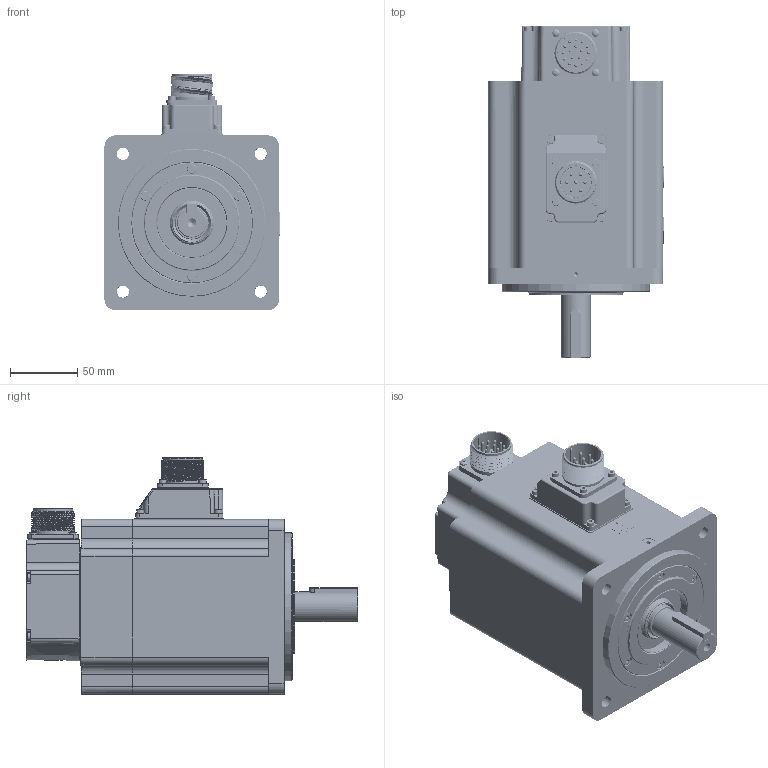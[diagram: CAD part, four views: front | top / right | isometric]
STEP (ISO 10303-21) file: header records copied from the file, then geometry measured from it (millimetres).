
FILE_DESCRIPTION( ( 'Unknown' ), '1' );
FILE_NAME( 'X:/05_Progetto TCE/010-TCE motor drawings/TCE130/Vuoti/TCE130 5F XX 3 A2 1 C3.stp', 'Unknown', ( 'Unknown' ), ( 'Unknown' ), 'PSStep 17.0.49', 'Unknown', ' ' );
FILE_SCHEMA( ( 'AUTOMOTIVE_DESIGN { 1 0 10303 214 1 1 1 1 }' ) );
Length unit declared in the file: millimetre
Products named in the file (52): back cover TCE100 + CN MIL; 003303000373; 003108015154; 005911000525; 005911000525-oa3; 005911000525-oa4; 005911000525-oa5; 001107000620; U5160002_vuoto; 003120002514; 003799000580; 003303000370; 005117001750; cap-M3 nudo; 005911000150; 005911000201; Assem1; 003103001510; 005008000302-oa0; 005008000842-oa1; 005008000690-oa2; 003155000301; 003251022006; 005751000410; 005911000430; 005911003646; 005123001528; 005123000600; 005113002005; 005009000203; 005204000001; 005204000002; 005119000340; 005204000003; 005911000493; 003003050021
Assembly tree (77 placements, depth 3):
  Assem1
    003103001510
    005008000302-oa0
    005008000842-oa1
    005008000690-oa2
    003155000301
    003251022006
    005751000410
    005911000430  x10
    005911003646  x8
    005123001528
    005123001528
    005123001528
    005123001528
    005123001528
    005123001528
    005123001528
    005123000600
    005123000600
    005123000600
    005123000600
    005123000600
    005123000600
    005123000600
    005113002005
    005009000203
    005204000001
    005204000002
    005119000340
    005119000340
    005204000003
    005911000493  x4
    003003050021
    back cover TCE100 + CN MIL
      003303000373
      003108015154
      005911000525
      005911000525-oa3
      005911000525-oa4
      005911000525-oa5
      001107000620
    U5160002_vuoto
      003120002514
      003120002514
      003799000580
      003303000370
      003303000373
      005117001750
      005117001750
      cap-M3 nudo
      005911000150
      005911000201  x8
Bounding box: 130.3 x 247 x 175.8 mm (x, y, z)
Volume: 1103302.8 mm3; surface area: 398848.8 mm2
Topology: 75 solids, 85 shells, 3047 faces, 7550 edges, 4862 vertices
Faces by surface type: plane 1541, cylinder 732, extrusion 233, cone 178, torus 148, bspline 143, sphere 72
Full cylindrical faces by diameter (mm): 2 x34, 2.224 x1, 2.4 x8, 2.459 x24, 2.5 x3, 2.6 x1, 2.8 x7, 2.9 x4, 3 x30, 3.048 x4, 3.2 x5, 3.242 x30, 3.5 x11, 3.6 x1, 3.7 x8, 3.8 x2, 4 x23, 4.134 x16, 4.5 x6, 4.7 x11, 5 x8, 5.1 x1, 5.5 x34, 5.6 x4, 5.8 x6, 6.647 x2, 7 x10, 8 x13, 8.5 x8, 10 x1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
Entity records: 121902 total; most frequent: CARTESIAN_POINT 41326, ORIENTED_EDGE 11678, DIRECTION 11546, EDGE_CURVE 5839, VERTEX_POINT 4134, AXIS2_PLACEMENT_3D 4046, EDGE_LOOP 3597, VECTOR 3454
